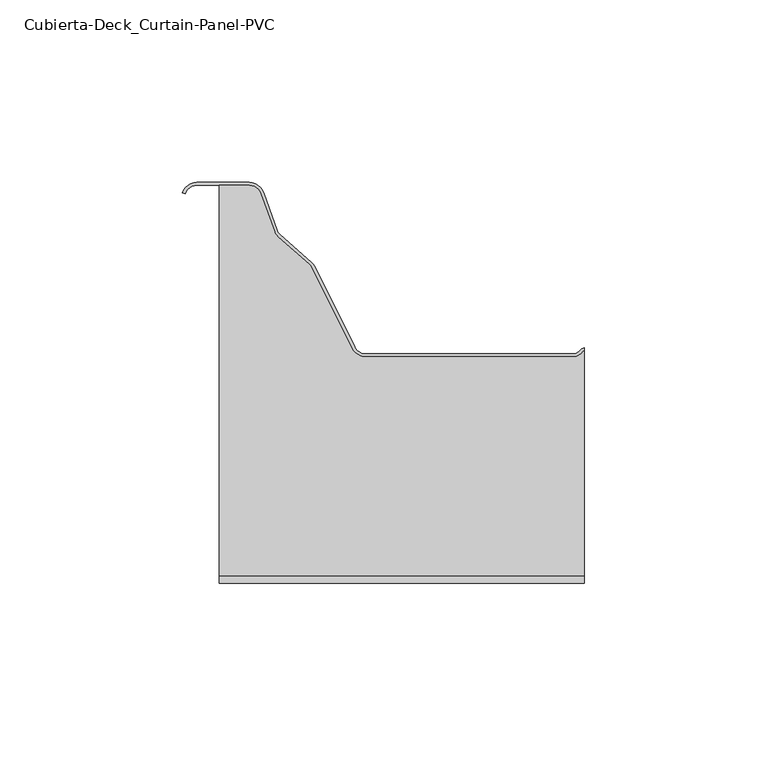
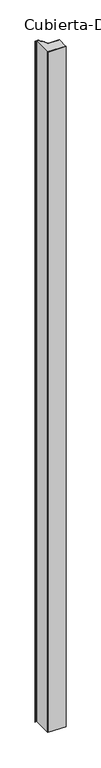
"""IFC4 building model written with IfcOpenShell, lengths in millimetres: plate geometry, Cubierta-Deck_Curtain-Panel-PVC : ACH_Cubierta-Deck_MW_60 mm."""

import ifcopenshell
import ifcopenshell.guid

model = None  # the IFC model being written
_history = None  # IfcOwnerHistory: only IFC2X3 demands one
_inside = {}  # id of a spatial element -> (the spatial element, [elements in it])
_under = {}  # id of a project, library or spatial element -> (it, [spatial elements below it])
_declared = {}  # id of a project -> (the project, [libraries it declares])
_typed = {}  # id of a type object -> (the type object, [elements of that type])
_made_of = {}  # id of a material, layer set ... -> (it, [elements and type objects made of it])


def new_model(schema):
    """Start an empty IFC model of exactly this schema.

    Asked for "IFC4X3", IfcOpenShell would pick the latest addendum, in which some entities
    have other attributes; the version numbers below select the first issue.
    IFC2X3 requires an IfcOwnerHistory on every rooted entity: one is made here for all.
    """
    global model, _history
    if schema == "IFC4X3":
        model = ifcopenshell.file(schema_version=(4, 3, 0, 0))
    else:
        model = ifcopenshell.file(schema=schema)
    _inside.clear()
    _under.clear()
    _declared.clear()
    _typed.clear()
    _made_of.clear()
    _history = None
    if model.schema == "IFC2X3":
        org = make("IfcOrganization", Name="unknown")
        user = make(
            "IfcPersonAndOrganization",
            ThePerson=make("IfcPerson", FamilyName="unknown"),
            TheOrganization=org,
        )
        app = make(
            "IfcApplication",
            ApplicationDeveloper=org,
            Version="unknown",
            ApplicationFullName="unknown",
            ApplicationIdentifier="unknown",
        )
        _history = make(
            "IfcOwnerHistory",
            OwningUser=user,
            OwningApplication=app,
            ChangeAction="ADDED",
            CreationDate=0,
        )
    return model


def make(cls, **values):
    """One entity of the class cls with the attributes given. An attribute that is None is left unset."""
    return model.create_entity(
        cls, **{name: value for name, value in values.items() if value is not None}
    )


def rooted(cls, **values):
    """An entity with a GlobalId (a new one), such as an element, a storey or a relation."""
    return make(cls, GlobalId=ifcopenshell.guid.new(), OwnerHistory=_history, **values)


def si_unit(unit_type, name, prefix=None):
    """IfcSIUnit, for example si_unit("LENGTHUNIT", "METRE", prefix="MILLI")."""
    return make("IfcSIUnit", UnitType=unit_type, Prefix=prefix, Name=name)


def assignment(units):
    """IfcUnitAssignment: the units of a project."""
    return None if units is None else make("IfcUnitAssignment", Units=units)


def point(xyz):
    """IfcCartesianPoint."""
    return None if xyz is None else make("IfcCartesianPoint", Coordinates=xyz)


def direction(xyz):
    """IfcDirection."""
    return None if xyz is None else make("IfcDirection", DirectionRatios=xyz)


def frame(location, z_axis=None, x_axis=None):
    """IfcAxis2Placement3D, a coordinate frame: its origin and axes. An axis left out is left unset."""
    return make(
        "IfcAxis2Placement3D",
        Location=point(location),
        Axis=direction(z_axis),
        RefDirection=direction(x_axis),
    )


def frame_2d(location, x_axis=None):
    """IfcAxis2Placement2D, a coordinate frame in the plane: its origin and x axis."""
    return make(
        "IfcAxis2Placement2D", Location=point(location), RefDirection=direction(x_axis)
    )


def origin():
    """The frame at (0, 0, 0) with its axes left unset."""
    return frame((0.0, 0.0, 0.0))


def origin_with_axes():
    """The frame at (0, 0, 0) with the z axis (0, 0, 1) and the x axis (1, 0, 0) written out."""
    return frame((0.0, 0.0, 0.0), z_axis=(0.0, 0.0, 1.0), x_axis=(1.0, 0.0, 0.0))


def place(relative_to, where):
    """IfcLocalPlacement: puts the frame where relative to a parent placement (None: the world)."""
    return make(
        "IfcLocalPlacement", PlacementRelTo=relative_to, RelativePlacement=where
    )


def context(
    kind, dimensions, precision=None, world=None, true_north=None, identifier=None
):
    """IfcGeometricRepresentationContext, for example the 3D "Model" context."""
    return make(
        "IfcGeometricRepresentationContext",
        ContextIdentifier=identifier,
        ContextType=kind,
        CoordinateSpaceDimension=dimensions,
        Precision=precision,
        WorldCoordinateSystem=world,
        TrueNorth=true_north,
    )


def project(units=None, contexts=None):
    """IfcProject with its units and contexts."""
    return rooted(
        "IfcProject",
        Name="project",
        RepresentationContexts=contexts,
        UnitsInContext=assignment(units),
    )


def spatial(cls, under=None, at=None, **own):
    """A site, building, storey or space (cls), placed at a placement, below another one or the project."""
    s = rooted(cls, ObjectPlacement=at, **own)
    if under is not None:
        _under.setdefault(under.id(), (under, []))[1].append(s)
    return s


def polyline(points):
    """IfcPolyline through the points."""
    return make("IfcPolyline", Points=[point(p) for p in points])


def circle_curve(where, radius):
    """IfcCircle in the frame where."""
    return make("IfcCircle", Position=where, Radius=radius)


def trimmed(basis, trim1, trim2, sense, master):
    """IfcTrimmedCurve: the piece of a basis curve between two trims."""
    return make(
        "IfcTrimmedCurve",
        BasisCurve=basis,
        Trim1=trim1,
        Trim2=trim2,
        SenseAgreement=sense,
        MasterRepresentation=master,
    )


def segment(curve, same_sense, transition):
    """IfcCompositeCurveSegment."""
    return make(
        "IfcCompositeCurveSegment",
        Transition=transition,
        SameSense=same_sense,
        ParentCurve=curve,
    )


def composite_curve(segments, self_intersect=None):
    """IfcCompositeCurve: segments joined end to end."""
    return make("IfcCompositeCurve", Segments=segments, SelfIntersect=self_intersect)


def outline(outer, holes=None, kind="AREA"):
    """IfcArbitraryClosedProfileDef: a profile drawn as a closed curve; with holes, ...WithVoids."""
    if holes is None:
        return make("IfcArbitraryClosedProfileDef", ProfileType=kind, OuterCurve=outer)
    return make(
        "IfcArbitraryProfileDefWithVoids",
        ProfileType=kind,
        OuterCurve=outer,
        InnerCurves=holes,
    )


def extrude(swept, where, along, depth):
    """IfcExtrudedAreaSolid: the profile swept, set in the frame where, extruded along a direction by depth."""
    return make(
        "IfcExtrudedAreaSolid",
        SweptArea=swept,
        Position=where,
        ExtrudedDirection=direction(along),
        Depth=depth,
    )


def shape(context_of_items, identifier, shape_type, items):
    """IfcShapeRepresentation: the items that make up one representation, for example the "Body"."""
    return make(
        "IfcShapeRepresentation",
        ContextOfItems=context_of_items,
        RepresentationIdentifier=identifier,
        RepresentationType=shape_type,
        Items=items,
    )


def source(mapping_origin, context_of_items, identifier, shape_type, items):
    """IfcRepresentationMap: a shape defined once, which mapped items show again and again."""
    return make(
        "IfcRepresentationMap",
        MappingOrigin=mapping_origin,
        MappedRepresentation=shape(context_of_items, identifier, shape_type, items),
    )


def transform(
    local_origin,
    x_axis=None,
    y_axis=None,
    z_axis=None,
    scale=None,
    scale2=None,
    scale3=None,
    uniform=True,
):
    """IfcCartesianTransformationOperator3D, or its non-uniform kind. x_axis, y_axis, z_axis: its Axis1, 2, 3."""
    if uniform:
        return make(
            "IfcCartesianTransformationOperator3D",
            Axis1=direction(x_axis),
            Axis2=direction(y_axis),
            LocalOrigin=point(local_origin),
            Scale=scale,
            Axis3=direction(z_axis),
        )
    return make(
        "IfcCartesianTransformationOperator3DnonUniform",
        Axis1=direction(x_axis),
        Axis2=direction(y_axis),
        LocalOrigin=point(local_origin),
        Scale=scale,
        Axis3=direction(z_axis),
        Scale2=scale2,
        Scale3=scale3,
    )


def mapped(mapping_source, mapping_target):
    """IfcMappedItem: shows the shape of a source again, moved by a transform."""
    return make(
        "IfcMappedItem", MappingSource=mapping_source, MappingTarget=mapping_target
    )


def made_of(thing, what):
    """Note that an element or type object is made of a material, layer set ...; save() writes the relation."""
    if what is not None:
        _made_of.setdefault(what.id(), (what, []))[1].append(thing)
    return thing


def element(
    cls,
    number,
    at=None,
    inside=None,
    cuts=None,
    type_object=None,
    material=None,
    context=None,
    identifier="Body",
    shape_type=None,
    held_by="IfcProductDefinitionShape",
    body=None,
    shapes=None,
    **own,
):
    """One element of the class cls, such as IfcWall. Its Tag is "e" and its number.

    at: its placement. inside: the storey or other place that contains it. cuts: it is an
    opening in that element (IfcRelVoidsElement). A single representation is given by context,
    identifier, shape_type and body (its items); several are given by shapes. held_by: the class
    of the entity that holds the representations. save() writes the other relations.
    """
    e = rooted(cls, Tag="e%d" % number, ObjectPlacement=at, **own)
    if body is not None:
        shapes = [shape(context, identifier, shape_type, body)]
    if shapes is not None:
        e.Representation = make(held_by, Representations=shapes)
    if inside is not None:
        _inside.setdefault(inside.id(), (inside, []))[1].append(e)
    if cuts is not None:
        rooted(
            "IfcRelVoidsElement", RelatingBuildingElement=cuts, RelatedOpeningElement=e
        )
    if type_object is not None:
        _typed.setdefault(type_object.id(), (type_object, []))[1].append(e)
    return made_of(e, material)


def aggregate(whole, parts):
    """IfcRelAggregates: a whole, such as a stair, and the parts it consists of."""
    return rooted("IfcRelAggregates", RelatingObject=whole, RelatedObjects=parts)


def save(model, path):
    """Write the relations noted so far, then the file.

    IfcRelAggregates (storeys below a building ...), IfcRelContainedInSpatialStructure (elements
    in a storey), IfcRelDefinesByType, IfcRelAssociatesMaterial and IfcRelDeclares: one each for
    every whole, place, type object, material and project.
    """
    for whole, parts in _under.values():
        aggregate(whole, parts)
    for where, things in _inside.values():
        rooted(
            "IfcRelContainedInSpatialStructure",
            RelatedElements=things,
            RelatingStructure=where,
        )
    for kind, things in _typed.values():
        rooted("IfcRelDefinesByType", RelatedObjects=things, RelatingType=kind)
    for what, things in _made_of.values():
        rooted("IfcRelAssociatesMaterial", RelatedObjects=things, RelatingMaterial=what)
    for by, libraries in _declared.values():
        rooted("IfcRelDeclares", RelatingContext=by, RelatedDefinitions=libraries)
    model.write(path)


def cubierta_deck_curtain_panel_pvc_4e866324(model_context):
    return source(origin(), model_context, "Body", "SweptSolid", [
        extrude(outline(composite_curve([segment(polyline([(-50.0, -108.8), (-50.0, -1.8), (-41.8323638, -1.8)]), True, "CONTINUOUS"), segment(trimmed(circle_curve(frame_2d((-41.8323638, -5.2)), 3.4), [point((-41.8323638, -1.8))], [point((-38.6330749, -4.0491088))], False, "CARTESIAN"), True, "CONTINUOUS"), segment(polyline([(-38.6330749, -4.0491088), (-34.8455616, -14.5777749)]), True, "CONTINUOUS"), segment(trimmed(circle_curve(frame_2d((-31.9285629, -13.5284329)), 3.1), [point((-34.8455616, -14.5777749))], [point((-33.9696761, -15.8616403))], True, "CARTESIAN"), True, "CONTINUOUS"), segment(polyline([(-33.9696761, -15.8616403), (-25.3099327, -23.4372709)]), True, "CONTINUOUS"), segment(trimmed(circle_curve(frame_2d((-27.2193612, -25.6199488)), 2.9), [point((-25.3099327, -23.4372709))], [point((-24.6223111, -24.3294719))], False, "CARTESIAN"), True, "CONTINUOUS"), segment(polyline([(-24.6223111, -24.3294719), (-13.6487521, -46.4134657)]), True, "CONTINUOUS"), segment(trimmed(circle_curve(frame_2d((-9.7979536, -44.5)), 4.3), [point((-13.6487521, -46.4134657))], [point((-9.7979536, -48.8))], True, "CARTESIAN"), True, "CONTINUOUS"), segment(polyline([(-9.7979536, -48.8), (46.9819404, -48.8)]), True, "CONTINUOUS"), segment(trimmed(circle_curve(frame_2d((46.9819404, -45.7)), 3.1), [point((46.9819404, -48.8))], [point((49.1739715, -47.892031))], True, "CARTESIAN"), True, "CONTINUOUS"), segment(polyline([(49.1739715, -47.892031), (49.7941272, -47.2718753)]), True, "CONTINUOUS"), segment(trimmed(circle_curve(frame_2d((51.4672218, -50.0020238)), 3.2020238), [point((49.7941272, -47.2718753))], [point((50.0, -47.1559359))], False, "CARTESIAN"), True, "CONTINUOUS"), segment(polyline([(50.0, -47.1559359), (50.0, -108.8), (-50.0, -108.8)]), True, "CONTINUOUS")], self_intersect=False)), origin_with_axes(), (0.0, 0.0, 1.0), 4000.0),
        extrude(outline(composite_curve([segment(polyline([(-56.1676362, -1.0), (-41.8323638, -1.0)]), True, "CONTINUOUS"), segment(trimmed(circle_curve(frame_2d((-41.8323638, -5.2)), 4.2), [point((-41.8323638, -1.0))], [point((-37.880301, -3.7783109))], False, "CARTESIAN"), True, "CONTINUOUS"), segment(polyline([(-37.880301, -3.7783109), (-34.0927877, -14.3069769)]), True, "CONTINUOUS"), segment(trimmed(circle_curve(frame_2d((-31.9285629, -13.5284329)), 2.3), [point((-34.0927877, -14.3069769))], [point((-33.4429372, -15.2595222))], True, "CARTESIAN"), True, "CONTINUOUS"), segment(polyline([(-33.4429372, -15.2595222), (-24.7831938, -22.8351529)]), True, "CONTINUOUS"), segment(trimmed(circle_curve(frame_2d((-27.2193612, -25.6199488)), 3.7), [point((-24.7831938, -22.8351529))], [point((-23.9058834, -23.9734783))], False, "CARTESIAN"), True, "CONTINUOUS"), segment(polyline([(-23.9058834, -23.9734783), (-12.9323245, -46.0574721)]), True, "CONTINUOUS"), segment(trimmed(circle_curve(frame_2d((-9.7979536, -44.5)), 3.5), [point((-12.9323245, -46.0574721))], [point((-9.7979536, -48.0))], True, "CARTESIAN"), True, "CONTINUOUS"), segment(polyline([(-9.7979536, -48.0), (46.9819404, -48.0)]), True, "CONTINUOUS"), segment(trimmed(circle_curve(frame_2d((46.9819404, -45.7)), 2.3), [point((46.9819404, -48.0))], [point((48.608286, -47.3263456))], True, "CARTESIAN"), True, "CONTINUOUS"), segment(polyline([(48.608286, -47.3263456), (49.2916152, -46.6430165)]), True, "CONTINUOUS"), segment(trimmed(circle_curve(frame_2d((51.4672218, -50.0020238)), 4.0020238), [point((49.2916152, -46.6430165))], [point((50.0, -46.2786578))], False, "CARTESIAN"), True, "CONTINUOUS"), segment(polyline([(50.0, -46.2786578), (50.0, -47.1559359)]), True, "CONTINUOUS"), segment(trimmed(circle_curve(frame_2d((51.4672218, -50.0020238)), 3.2020238), [point((50.0, -47.1559359))], [point((49.7941272, -47.2718753))], True, "CARTESIAN"), True, "CONTINUOUS"), segment(polyline([(49.7941272, -47.2718753), (49.1739715, -47.892031)]), True, "CONTINUOUS"), segment(trimmed(circle_curve(frame_2d((46.9819404, -45.7)), 3.1), [point((49.1739715, -47.892031))], [point((46.9819404, -48.8))], False, "CARTESIAN"), True, "CONTINUOUS"), segment(polyline([(46.9819404, -48.8), (-9.7979536, -48.8)]), True, "CONTINUOUS"), segment(trimmed(circle_curve(frame_2d((-9.7979536, -44.5)), 4.3), [point((-9.7979536, -48.8))], [point((-13.6487521, -46.4134657))], False, "CARTESIAN"), True, "CONTINUOUS"), segment(polyline([(-13.6487521, -46.4134657), (-24.6223111, -24.3294719)]), True, "CONTINUOUS"), segment(trimmed(circle_curve(frame_2d((-27.2193612, -25.6199488)), 2.9), [point((-24.6223111, -24.3294719))], [point((-25.3099327, -23.4372709))], True, "CARTESIAN"), True, "CONTINUOUS"), segment(polyline([(-25.3099327, -23.4372709), (-33.9696761, -15.8616403)]), True, "CONTINUOUS"), segment(trimmed(circle_curve(frame_2d((-31.9285629, -13.5284329)), 3.1), [point((-33.9696761, -15.8616403))], [point((-34.8455616, -14.5777749))], False, "CARTESIAN"), True, "CONTINUOUS"), segment(polyline([(-34.8455616, -14.5777749), (-38.6330749, -4.0491088)]), True, "CONTINUOUS"), segment(trimmed(circle_curve(frame_2d((-41.8323638, -5.2)), 3.4), [point((-38.6330749, -4.0491088))], [point((-41.8323638, -1.8))], True, "CARTESIAN"), True, "CONTINUOUS"), segment(polyline([(-41.8323638, -1.8), (-56.1676362, -1.8)]), True, "CONTINUOUS"), segment(trimmed(circle_curve(frame_2d((-56.1676362, -5.2)), 3.4), [point((-56.1676362, -1.8))], [point((-59.3669251, -4.0491088))], True, "CARTESIAN"), True, "CONTINUOUS"), segment(polyline([(-59.3669251, -4.0491088), (-60.119699, -3.7783109)]), True, "CONTINUOUS"), segment(trimmed(circle_curve(frame_2d((-56.1676362, -5.2)), 4.2), [point((-60.119699, -3.7783109))], [point((-56.1676362, -1.0))], False, "CARTESIAN"), True, "CONTINUOUS")], self_intersect=False)), origin_with_axes(), (0.0, 0.0, 1.0), 4000.0),
        extrude(outline(polyline([(-50.0, -110.8), (-50.0, -108.8), (50.0, -108.8), (50.0, -110.8), (-50.0, -110.8)])), origin_with_axes(), (0.0, 0.0, 1.0), 4000.0),
    ])


if __name__ == "__main__":
    model = new_model("IFC4")
    model_context = context("Model", 3, world=origin())
    ifc_project = project(units=[si_unit("LENGTHUNIT", "METRE", prefix="MILLI")], contexts=[model_context])
    site = spatial("IfcSite", under=ifc_project)
    building = spatial("IfcBuilding", under=site)
    placement = place(None, origin())
    cubierta_deck_curtain_panel_pvc_shape = cubierta_deck_curtain_panel_pvc_4e866324(model_context)
    element("IfcPlate", 1, ObjectType="Cubierta-Deck_Curtain-Panel-PVC : ACH_Cubierta-Deck_MW_60 mm", at=placement, inside=building, context=model_context, shape_type="MappedRepresentation", body=[
        mapped(cubierta_deck_curtain_panel_pvc_shape, transform((0.0, 0.0, 0.0), x_axis=(1.0, 0.0, 0.0), y_axis=(0.0, 1.0, 0.0), z_axis=(0.0, 0.0, 1.0))),
    ])
    save(model, "model.ifc")
